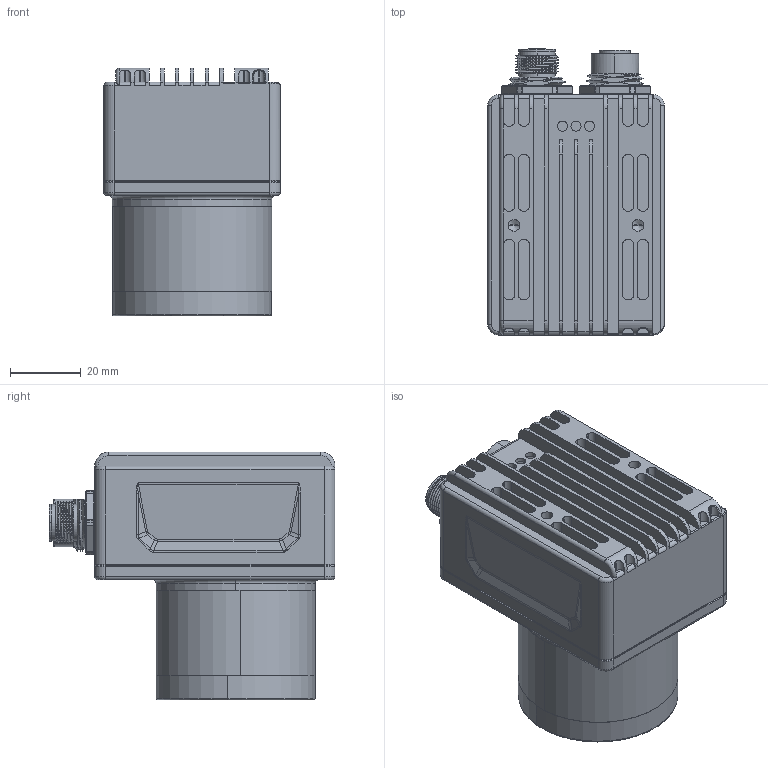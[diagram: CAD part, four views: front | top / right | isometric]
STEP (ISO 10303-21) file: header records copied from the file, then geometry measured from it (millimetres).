
FILE_DESCRIPTION (( 'STEP AP214' ), '1' );
FILE_NAME ('陔倰瘍.STEP', '2022-02-15T09:40:56', ( '' ), ( '' ), 'SwSTEP 2.0', 'SolidWorks 2020', '' );
FILE_SCHEMA (( 'AUTOMOTIVE_DESIGN' ));
Length unit declared in the file: millimetre
Products named in the file (50): HSL1008.stp; SR0603.stp; SR0402.stp; CCT_XAL5030_S.stp; XMR-AR-005A ѹȦ; HSX4-0302.stp; SOP-16.stp; SC0402.stp; SD3-1208-LED.stp; SMB.stp; DO-214AA-A.stp; AR9341-0002s; SR0805.stp; SOP8-50-150.stp; OK-14F050-04.stp; POWER_CON_2P_IND.stp; hexagon socket head cap screws gb_GB_FASTENER_SCREWS_HSHCS M2.5X4-N; MAX3483ESA.stp; BOARD.stp; H_R193D106BM122_PT_N.stp; 2920L200.stp; 翋啣; LI_LT8612E_S.stp; SC0603.stp; AR9341-0003; 噩芛蛌諉遠; STFM24-40-280.stp; AR9341-0001s; TP24-SMD.stp; V0805.stp; SC1206.stp; SOT23.stp; DLW5BTM501TQ2L.stp; SWPA6045S3R3NT.stp; XMR-AR-004A 滅誘欶极; AR9341_PWR_01-1218-1; AR9341_PWR_01-1218-1.stp; IO-PCB - 0628; 錨璃1; BTC201N.stp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
Assembly tree (238 placements, depth 5):
  陔倰瘍
    AR9341-0001s
    AR9341-0002s
    懦產薛
    AR9341-0003
    噩芛蛌諉遠
    IO-PCB - 0628
    翋啣
    AR9341_PWR_01-1218-1
      AR9341_PWR_01-1218-1.stp
        COMPONENTS.stp
          V0805.stp  x8
          H_R193D106BM122_PT_N.stp  x4
          SOT23.stp
          OK-14F050-04.stp
          SOP-16.stp  x3
          2920L200.stp
          BTC201N.stp  x2
          DLW5BTM501TQ2L.stp
          SMB.stp  x2
          POWER_CON_2P_IND.stp
          MARK_C0100S0150M_S.stp  x2
          MAX3483ESA.stp
          VSSOP8-20-91.stp
          CCT_XAL5030_S.stp
          LI_LT8612E_S.stp
          SWPA6045S3R3NT.stp
          TP24-SMD.stp
          SR0805.stp  x12
          SR0603.stp  x3
          SR0402.stp  x95
          SD3-1208-LED.stp
          SL0805.stp  x3
          HSL1008.stp
          DO-214AA-A.stp  x4
          SC1206.stp  x13
          SC0603.stp  x10
          SC0402.stp  x38
          HSX4-0302.stp
          SOP8-50-150.stp  x2
          STFM24-40-280.stp
          QFN40-8211FI.stp
          SIDC60-I20-160.stp
        BOARD.stp
    錨璃1
    hexagon socket head cap screws gb_GB_FASTENER_SCREWS_HSHCS M2.5X4-N  x4
    XMR-AR-003A 滅誘欶ヶ裔
    XMR-AR-004A 滅誘欶极
    XMR-AR-005A ѹȦ
    M12-IR4.5噩芛
Bounding box: 49.8 x 80.7 x 70 mm (x, y, z)
Volume: 72964.7 mm3; surface area: 81475.6 mm2
Topology: 28 solids, 247 shells, 2631 faces, 6099 edges, 3747 vertices
Faces by surface type: plane 1719, cylinder 493, bspline 224, torus 119, cone 52, sphere 24
Entity records: 56762 total; most frequent: CARTESIAN_POINT 21192, ORIENTED_EDGE 6866, DIRECTION 6618, EDGE_CURVE 3472, AXIS2_PLACEMENT_3D 2495, VERTEX_POINT 2172, LINE 1628, VECTOR 1628
